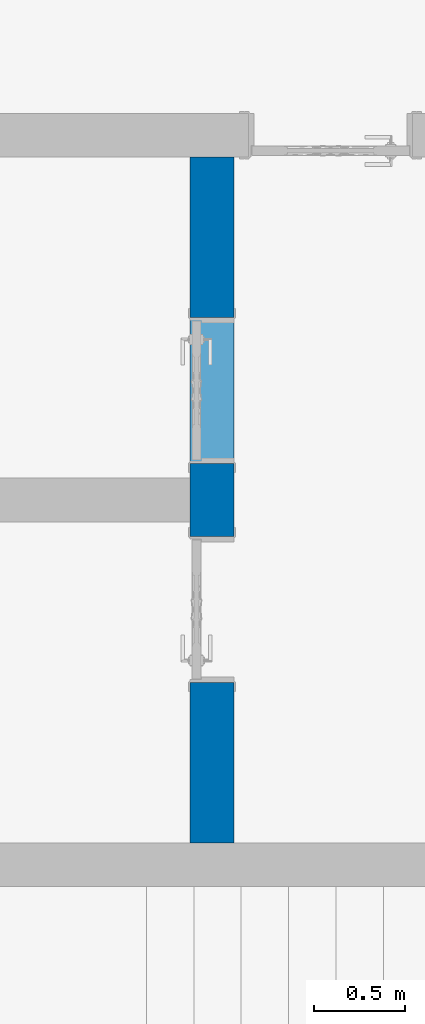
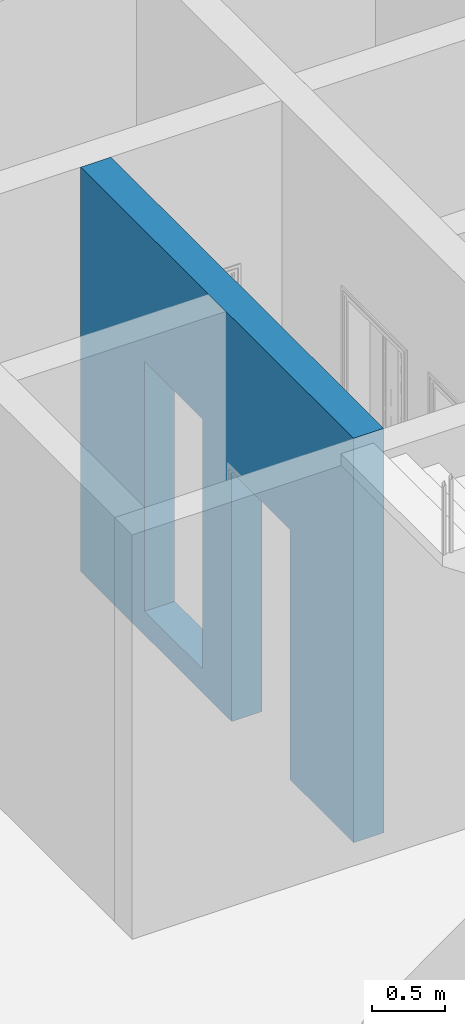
# One storey, part 6 of 24: 1 wall, 2 openings.
"""IFC2X3 building model written with IfcOpenShell, lengths in millimetres."""

from ifc_helpers import new_model, entity, si_unit, converted_unit, derived_unit, direction, frame, frame_2d, origin, place, context, subcontext, project, spatial, polyline, rectangle, extrude, clip, bounded_halfspace, material, layer, layer_set, layer_usage, type_object, element, save


model = new_model("IFC2X3")

# Units and contexts
model_context = context("Model", 3, precision=0.01, world=origin(), true_north=direction((6.12303176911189e-17, 1.0)))
body_context = subcontext(model_context, "Body", "Model", "MODEL_VIEW")
ifc_project = project(units=[si_unit("LENGTHUNIT", "METRE", prefix="MILLI"), si_unit("AREAUNIT", "SQUARE_METRE"), si_unit("VOLUMEUNIT", "CUBIC_METRE"), converted_unit("PLANEANGLEUNIT", "DEGREE", entity("IfcRatioMeasure", 0.0174532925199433), si_unit("PLANEANGLEUNIT", "RADIAN"), dimensions=[0, 0, 0, 0, 0, 0, 0]), si_unit("MASSUNIT", "GRAM", prefix="KILO"), derived_unit("MASSDENSITYUNIT", [(si_unit("MASSUNIT", "GRAM", prefix="KILO"), 1), (si_unit("LENGTHUNIT", "METRE"), -3)]), si_unit("TIMEUNIT", "SECOND"), si_unit("FREQUENCYUNIT", "HERTZ"), si_unit("THERMODYNAMICTEMPERATUREUNIT", "DEGREE_CELSIUS"), derived_unit("THERMALTRANSMITTANCEUNIT", [(si_unit("MASSUNIT", "GRAM", prefix="KILO"), 1), (si_unit("THERMODYNAMICTEMPERATUREUNIT", "KELVIN"), -1), (si_unit("TIMEUNIT", "SECOND"), -3)]), derived_unit("VOLUMETRICFLOWRATEUNIT", [(si_unit("LENGTHUNIT", "METRE"), 3), (si_unit("TIMEUNIT", "SECOND"), -1)]), si_unit("ELECTRICCURRENTUNIT", "AMPERE"), si_unit("ELECTRICVOLTAGEUNIT", "VOLT"), si_unit("POWERUNIT", "WATT"), si_unit("FORCEUNIT", "NEWTON", prefix="KILO"), si_unit("ILLUMINANCEUNIT", "LUX"), si_unit("LUMINOUSFLUXUNIT", "LUMEN"), si_unit("LUMINOUSINTENSITYUNIT", "CANDELA"), derived_unit("USERDEFINED", [(si_unit("MASSUNIT", "GRAM", prefix="KILO"), -1), (si_unit("LENGTHUNIT", "METRE"), -2), (si_unit("TIMEUNIT", "SECOND"), 3), (si_unit("LUMINOUSFLUXUNIT", "LUMEN"), 1)]), derived_unit("LINEARVELOCITYUNIT", [(si_unit("LENGTHUNIT", "METRE"), 1), (si_unit("TIMEUNIT", "SECOND"), -1)]), si_unit("PRESSUREUNIT", "PASCAL"), derived_unit("USERDEFINED", [(si_unit("LENGTHUNIT", "METRE"), -2), (si_unit("MASSUNIT", "GRAM", prefix="KILO"), 1), (si_unit("TIMEUNIT", "SECOND"), -2)])], contexts=[model_context])

# Site, building, storey
site_placement = place(None, origin())
site = spatial("IfcSite", under=ifc_project, at=site_placement, Name="表面", CompositionType="ELEMENT")
building_placement = place(site_placement, origin())
building = spatial("IfcBuilding", under=site, at=building_placement, CompositionType="ELEMENT")
storey_placement = place(building_placement, frame((0.0, 0.0, -3500.0)))
storey = spatial("IfcBuildingStorey", under=building, at=storey_placement, Name="-1F", CompositionType="ELEMENT", Elevation=-3500.0)

# Wall, openings
ifc_material_1 = material(Name="白色涂料")
ifc_layer_1 = layer(ifc_material_1, 10.0)
ifc_material_2 = material(Name="默认墙")
ifc_layer_2 = layer(ifc_material_2, 220.0)
ifc_layer_3 = layer(ifc_material_1, 10.0)
ifc_layer_set = layer_set([ifc_layer_1, ifc_layer_2, ifc_layer_3], Name="基本墙:粉刷墙240")
ifc_layer_usage = layer_usage(ifc_layer_set, "AXIS2", "NEGATIVE", 120.0)
wall_type = type_object("IfcWallType", Name="基本墙:粉刷墙240", PredefinedType="STANDARD", material=ifc_layer_set)
wall_placement = place(storey_placement, frame((-10130.2499126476, -5387.84591297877, 0.0), z_axis=(0.0, 0.0, 1.0), x_axis=(0.0, 1.0, 0.0)))
wall = element("IfcWallStandardCase", 1, at=wall_placement, inside=storey, type_object=wall_type, material=ifc_layer_usage, Name="基本墙:粉刷墙240", ObjectType="基本墙:粉刷墙240", context=body_context, shape_type="Clipping", body=[
    clip(extrude(rectangle(XDim=3760.0, YDim=240.000000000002, at=frame_2d((1880.0, -1.98951966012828e-13), x_axis=(-1.0, 0.0))), origin(), (0.0, 0.0, 1.0), 3399.99999999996), bounded_halfspace(frame((0.0, -120.0, 3400.0), z_axis=(0.0, 0.0, -1.0), x_axis=(-1.0, 0.0, 0.0)), True, frame((0.0, -120.0, 3400.0)), polyline([(0.0, 0.0), (3760.0, 0.0), (3760.0, 240.0), (2000.0, 240.0), (1760.0, 240.0), (0.0, 240.0), (0.0, 0.0)]))),
])
opening_1_placement = place(wall_placement, frame((880.0, -120.0, 0.0)))
element("IfcOpeningElement", 2, at=opening_1_placement, cuts=wall, Name="装饰木门:M0821:1", ObjectType="Opening", context=body_context, shape_type="SweptSolid", body=[
    extrude(rectangle(XDim=2099.99999999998, YDim=800.0, at=frame_2d((1049.99999999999, 400.0), x_axis=(1.0, 0.0))), frame((0.0, 0.0, 0.0), z_axis=(0.0, 1.0, 0.0), x_axis=(0.0, 0.0, 1.0)), (0.0, 0.0, 1.0), 240.0),
])
opening_2_placement = place(wall_placement, frame((2080.0, -120.0, 200.0)))
element("IfcOpeningElement", 3, at=opening_2_placement, cuts=wall, Name="装饰木门:M0821:1", ObjectType="Opening", context=body_context, shape_type="SweptSolid", body=[
    extrude(rectangle(XDim=2099.99999999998, YDim=800.0, at=frame_2d((1049.99999999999, 400.0), x_axis=(1.0, 0.0))), frame((0.0, 0.0, 0.0), z_axis=(0.0, 1.0, 0.0), x_axis=(0.0, 0.0, 1.0)), (0.0, 0.0, 1.0), 240.0),
])

save(model, "model.ifc")
